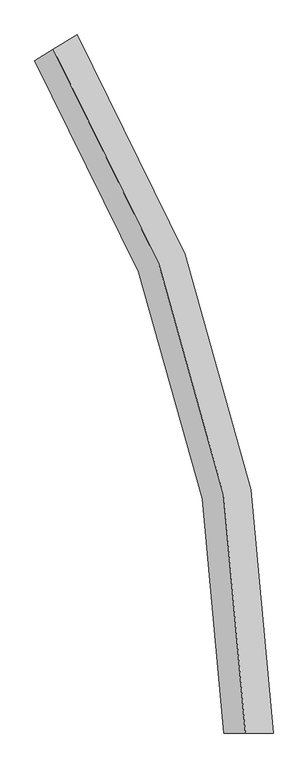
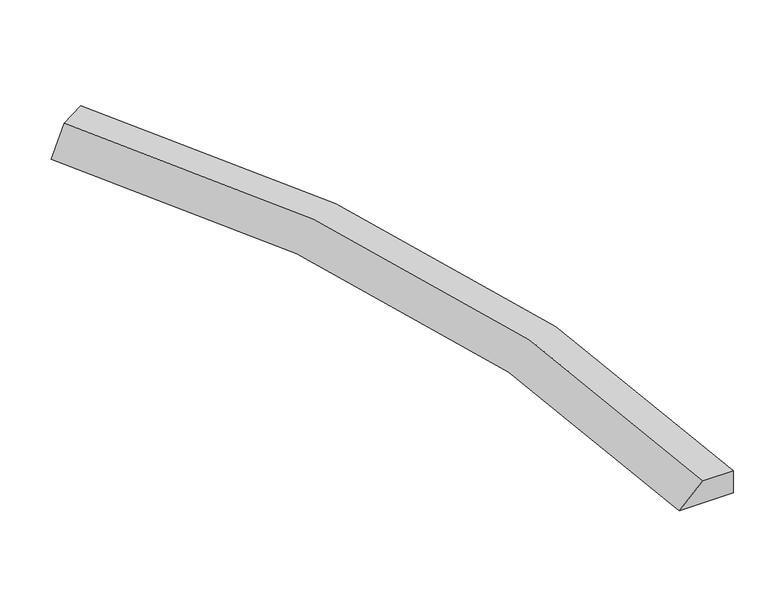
"""IFC4 building model written with IfcOpenShell, lengths in millimetres: proxy geometry, Gousset radier courbe ext ou int : Gousset radier courbe - coté extérieur."""

from ifc_helpers import new_model, si_unit, frame, origin, origin_with_axes, place, context, project, spatial, polyline, circle_curve, source, transform, mapped, element, save
from ifc_brep_helpers import plane_surface, cylinder_surface, revolved_surface, advanced_brep


def generic_models_71e85ab6(model_context):
    return source(origin(), model_context, "Body", "AdvancedBrep", [
        advanced_brep(
        [(21675.0, 0.0, 0.0), (21675.0, 0.0, 350.0), (21225.0, 0.0, 350.0), (20875.0, 0.0, 0.0), (18492.4304449, 11306.4424662, 0.0), (18492.4304449, 11306.4424662, 350.0), (18108.5045533, 11071.7066364, 350.0), (17809.8955265, 10889.1343244, 0.0)],
        [
            (0, 1),
            (1, 2),
            (2, 3),
            (3, 0),
            (0, 4, circle_curve(origin_with_axes(), 21675.0)),
            (4, 5),
            (5, 1, circle_curve(frame((0.0, 0.0, 350.0), z_axis=(0.0, 0.0, -1.0), x_axis=(1.0, 0.0, 0.0)), 21675.0)),
            (5, 6),
            (6, 2, circle_curve(frame((0.0, 0.0, 350.0), z_axis=(0.0, 0.0, -1.0), x_axis=(1.0, 0.0, 0.0)), 21225.0)),
            (6, 7),
            (7, 3, circle_curve(frame((0.0, 0.0, 0.0), z_axis=(0.0, 0.0, -1.0), x_axis=(1.0, 0.0, 0.0)), 20875.0)),
            (7, 4),
        ],
        [
            plane_surface(frame((0.0, 0.0, 1550.0), z_axis=(0.0, -1.0, 0.0), x_axis=(1.0, 0.0, 0.0))),
            cylinder_surface(frame((0.0, 0.0, 1550.0), z_axis=(0.0, 0.0, 1.0), x_axis=(1.0, 0.0, 0.0)), 21675.0),
            plane_surface(frame((0.0, 0.0, 350.0), z_axis=(0.0, 0.0, 1.0), x_axis=(1.0, 0.0, 0.0))),
            revolved_surface(polyline([(21225.0, 0.0, 350.0), (20875.0, 0.0, 0.0)]), (0.0, 0.0, 1550.0), (0.0, 0.0, 1.0)),
            plane_surface(frame((0.0, 0.0, 0.0), z_axis=(0.0, 0.0, -1.0), x_axis=(1.0, 0.0, 0.0))),
            plane_surface(frame((0.0, 0.0, 350.0), z_axis=(-0.5216351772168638, 0.853168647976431, 0.0), x_axis=(0.0, 0.0, -1.0))),
        ],
        [
            (0, [[1, 2, 3, 4]]),
            (1, [[-1, 5, 6, 7]]),
            (2, [[-2, -7, 8, 9]]),
            (3, [[-3, -9, 10, 11]]),
            (4, [[-4, -11, 12, -5]]),
            (5, [[-6, -12, -10, -8]]),
        ],
    ),
    ])


if __name__ == "__main__":
    model = new_model("IFC4")
    model_context = context("Model", 3, world=origin())
    ifc_project = project(units=[si_unit("LENGTHUNIT", "METRE", prefix="MILLI")], contexts=[model_context])
    site = spatial("IfcSite", under=ifc_project)
    building = spatial("IfcBuilding", under=site)
    placement = place(None, origin())
    generic_models_shape = generic_models_71e85ab6(model_context)
    element("IfcBuildingElementProxy", 1, Name="Gousset radier courbe ext ou int : Gousset radier courbe - coté extérieur", ObjectType="Gousset radier courbe ext ou int : Gousset radier courbe - coté extérieur", at=placement, inside=building, context=model_context, shape_type="MappedRepresentation", body=[
        mapped(generic_models_shape, transform((0.0, 0.0, 0.0), x_axis=(1.0, 0.0, 0.0), y_axis=(0.0, 1.0, 0.0), z_axis=(0.0, 0.0, 1.0))),
    ])
    save(model, "model.ifc")
